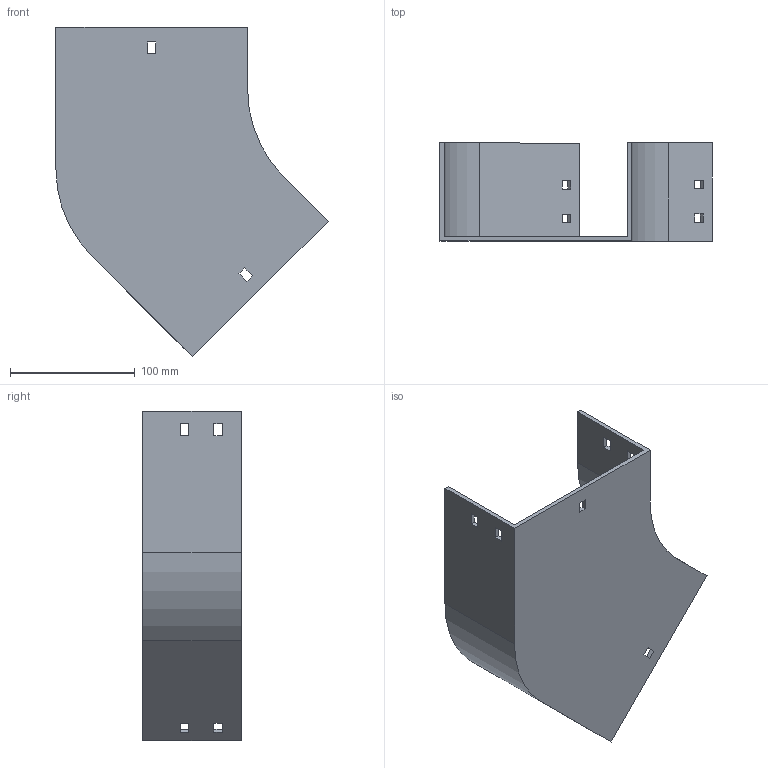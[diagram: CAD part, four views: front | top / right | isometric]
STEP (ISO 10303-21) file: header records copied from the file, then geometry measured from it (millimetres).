
FILE_DESCRIPTION (( 'STEP AP214' ), '1' );
FILE_NAME ('11B1C150.step', '2025-02-21T09:38:37', ( '' ), ( '' ), 'SwSTEP 2.0', 'SolidWorks 2023', '' );
FILE_SCHEMA (( 'AUTOMOTIVE_DESIGN' ));
Length unit declared in the file: millimetre
Products named in the file (1): 11B1C150
Bounding box: 218.64 x 79 x 264.96 mm (x, y, z)
Volume: 258635.7 mm3; surface area: 152792.1 mm2
Topology: 1 solids, 1 shells, 58 faces, 168 edges, 112 vertices
Faces by surface type: plane 54, cylinder 4
Entity records: 1943 total; most frequent: CARTESIAN_POINT 339, ORIENTED_EDGE 336, DIRECTION 294, EDGE_CURVE 168, LINE 160, VECTOR 160, VERTEX_POINT 112, EDGE_LOOP 78
